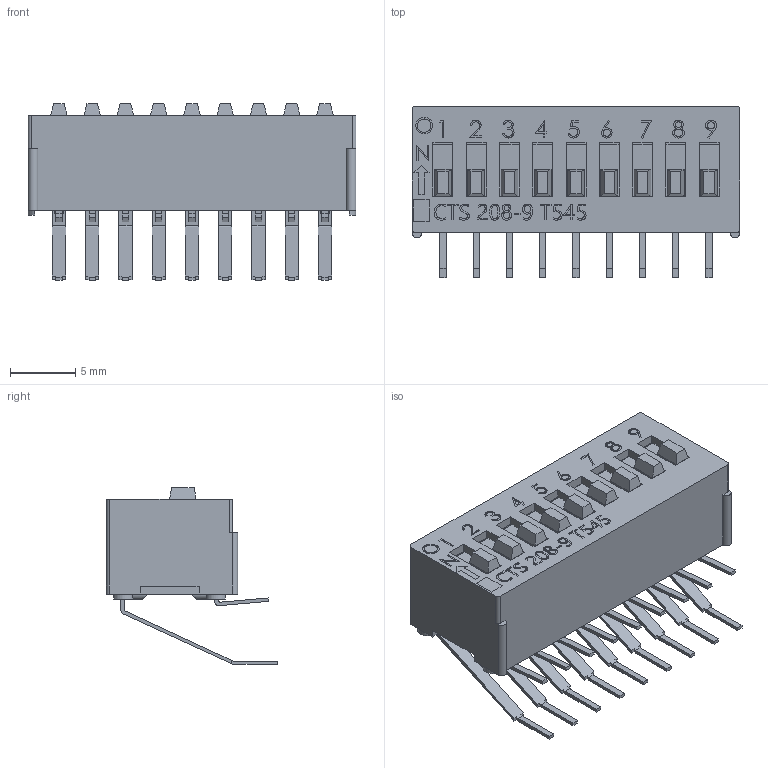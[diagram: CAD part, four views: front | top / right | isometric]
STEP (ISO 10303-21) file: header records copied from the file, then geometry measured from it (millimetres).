
FILE_DESCRIPTION (( 'STEP AP214' ), '1' );
FILE_NAME ('208-9RA.STEP', '2019-05-28T03:07:53', ( '' ), ( '' ), 'SwSTEP 2.0', 'SolidWorks 2019', '' );
FILE_SCHEMA (( 'AUTOMOTIVE_DESIGN' ));
Length unit declared in the file: millimetre
Products named in the file (4): 206-56-014-35-01; 208-9RA cover; 208-9RA; 206009RAS- Base assly
Assembly tree (11 placements, depth 2):
  208-9RA
    208-9RA cover
    206-56-014-35-01  x9
    206009RAS- Base assly
Bounding box: 25.04 x 13.08 x 13.5 mm (x, y, z)
Volume: 1093 mm3; surface area: 3506.7 mm2
Topology: 11 solids, 11 shells, 971 faces, 2608 edges, 1722 vertices
Faces by surface type: plane 694, bspline 153, cylinder 124
Entity records: 29814 total; most frequent: CARTESIAN_POINT 13320, ORIENTED_EDGE 3600, DIRECTION 2672, EDGE_CURVE 1800, VECTOR 1364, LINE 1364, VERTEX_POINT 1194, EDGE_LOOP 742
